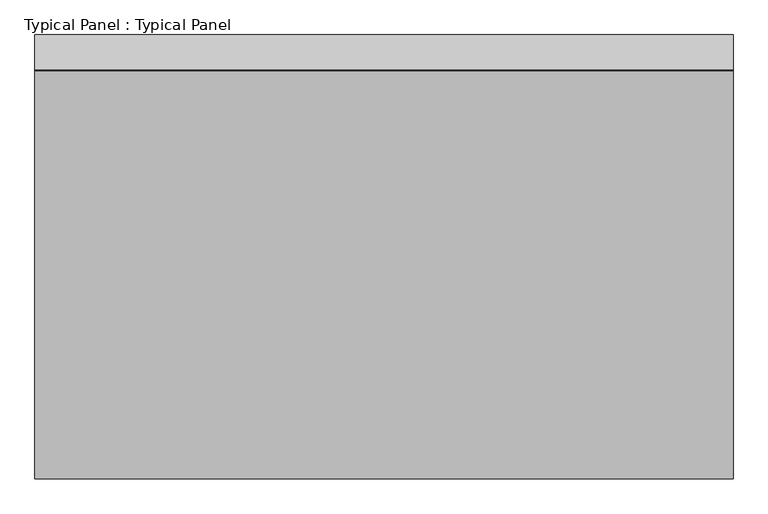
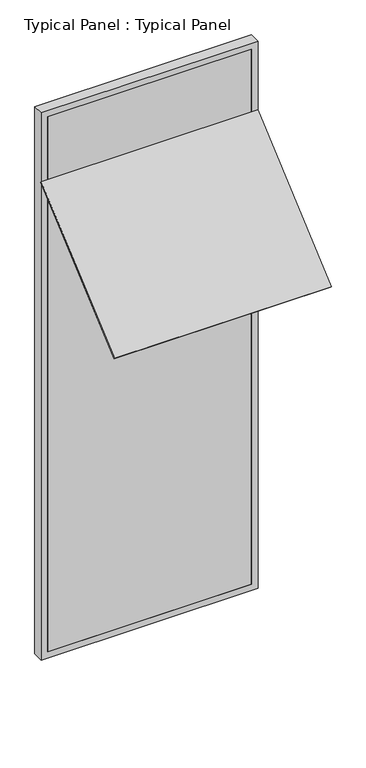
"""IFC4 building model written with IfcOpenShell, lengths in millimetres: plate geometry, Typical Panel : Typical Panel."""

import ifcopenshell
import ifcopenshell.guid

model = None  # the IFC model being written
_history = None  # IfcOwnerHistory: only IFC2X3 demands one
_inside = {}  # id of a spatial element -> (the spatial element, [elements in it])
_under = {}  # id of a project, library or spatial element -> (it, [spatial elements below it])
_declared = {}  # id of a project -> (the project, [libraries it declares])
_typed = {}  # id of a type object -> (the type object, [elements of that type])
_made_of = {}  # id of a material, layer set ... -> (it, [elements and type objects made of it])


def new_model(schema):
    """Start an empty IFC model of exactly this schema.

    Asked for "IFC4X3", IfcOpenShell would pick the latest addendum, in which some entities
    have other attributes; the version numbers below select the first issue.
    IFC2X3 requires an IfcOwnerHistory on every rooted entity: one is made here for all.
    """
    global model, _history
    if schema == "IFC4X3":
        model = ifcopenshell.file(schema_version=(4, 3, 0, 0))
    else:
        model = ifcopenshell.file(schema=schema)
    _inside.clear()
    _under.clear()
    _declared.clear()
    _typed.clear()
    _made_of.clear()
    _history = None
    if model.schema == "IFC2X3":
        org = make("IfcOrganization", Name="unknown")
        user = make(
            "IfcPersonAndOrganization",
            ThePerson=make("IfcPerson", FamilyName="unknown"),
            TheOrganization=org,
        )
        app = make(
            "IfcApplication",
            ApplicationDeveloper=org,
            Version="unknown",
            ApplicationFullName="unknown",
            ApplicationIdentifier="unknown",
        )
        _history = make(
            "IfcOwnerHistory",
            OwningUser=user,
            OwningApplication=app,
            ChangeAction="ADDED",
            CreationDate=0,
        )
    return model


def make(cls, **values):
    """One entity of the class cls with the attributes given. An attribute that is None is left unset."""
    return model.create_entity(
        cls, **{name: value for name, value in values.items() if value is not None}
    )


def rooted(cls, **values):
    """An entity with a GlobalId (a new one), such as an element, a storey or a relation."""
    return make(cls, GlobalId=ifcopenshell.guid.new(), OwnerHistory=_history, **values)


def si_unit(unit_type, name, prefix=None):
    """IfcSIUnit, for example si_unit("LENGTHUNIT", "METRE", prefix="MILLI")."""
    return make("IfcSIUnit", UnitType=unit_type, Prefix=prefix, Name=name)


def assignment(units):
    """IfcUnitAssignment: the units of a project."""
    return None if units is None else make("IfcUnitAssignment", Units=units)


def point(xyz):
    """IfcCartesianPoint."""
    return None if xyz is None else make("IfcCartesianPoint", Coordinates=xyz)


def direction(xyz):
    """IfcDirection."""
    return None if xyz is None else make("IfcDirection", DirectionRatios=xyz)


def frame(location, z_axis=None, x_axis=None):
    """IfcAxis2Placement3D, a coordinate frame: its origin and axes. An axis left out is left unset."""
    return make(
        "IfcAxis2Placement3D",
        Location=point(location),
        Axis=direction(z_axis),
        RefDirection=direction(x_axis),
    )


def origin():
    """The frame at (0, 0, 0) with its axes left unset."""
    return frame((0.0, 0.0, 0.0))


def place(relative_to, where):
    """IfcLocalPlacement: puts the frame where relative to a parent placement (None: the world)."""
    return make(
        "IfcLocalPlacement", PlacementRelTo=relative_to, RelativePlacement=where
    )


def context(
    kind, dimensions, precision=None, world=None, true_north=None, identifier=None
):
    """IfcGeometricRepresentationContext, for example the 3D "Model" context."""
    return make(
        "IfcGeometricRepresentationContext",
        ContextIdentifier=identifier,
        ContextType=kind,
        CoordinateSpaceDimension=dimensions,
        Precision=precision,
        WorldCoordinateSystem=world,
        TrueNorth=true_north,
    )


def project(units=None, contexts=None):
    """IfcProject with its units and contexts."""
    return rooted(
        "IfcProject",
        Name="project",
        RepresentationContexts=contexts,
        UnitsInContext=assignment(units),
    )


def spatial(cls, under=None, at=None, **own):
    """A site, building, storey or space (cls), placed at a placement, below another one or the project."""
    s = rooted(cls, ObjectPlacement=at, **own)
    if under is not None:
        _under.setdefault(under.id(), (under, []))[1].append(s)
    return s


def polyline(points):
    """IfcPolyline through the points."""
    return make("IfcPolyline", Points=[point(p) for p in points])


def outline(outer, holes=None, kind="AREA"):
    """IfcArbitraryClosedProfileDef: a profile drawn as a closed curve; with holes, ...WithVoids."""
    if holes is None:
        return make("IfcArbitraryClosedProfileDef", ProfileType=kind, OuterCurve=outer)
    return make(
        "IfcArbitraryProfileDefWithVoids",
        ProfileType=kind,
        OuterCurve=outer,
        InnerCurves=holes,
    )


def extrude(swept, where, along, depth):
    """IfcExtrudedAreaSolid: the profile swept, set in the frame where, extruded along a direction by depth."""
    return make(
        "IfcExtrudedAreaSolid",
        SweptArea=swept,
        Position=where,
        ExtrudedDirection=direction(along),
        Depth=depth,
    )


def shape(context_of_items, identifier, shape_type, items):
    """IfcShapeRepresentation: the items that make up one representation, for example the "Body"."""
    return make(
        "IfcShapeRepresentation",
        ContextOfItems=context_of_items,
        RepresentationIdentifier=identifier,
        RepresentationType=shape_type,
        Items=items,
    )


def source(mapping_origin, context_of_items, identifier, shape_type, items):
    """IfcRepresentationMap: a shape defined once, which mapped items show again and again."""
    return make(
        "IfcRepresentationMap",
        MappingOrigin=mapping_origin,
        MappedRepresentation=shape(context_of_items, identifier, shape_type, items),
    )


def transform(
    local_origin,
    x_axis=None,
    y_axis=None,
    z_axis=None,
    scale=None,
    scale2=None,
    scale3=None,
    uniform=True,
):
    """IfcCartesianTransformationOperator3D, or its non-uniform kind. x_axis, y_axis, z_axis: its Axis1, 2, 3."""
    if uniform:
        return make(
            "IfcCartesianTransformationOperator3D",
            Axis1=direction(x_axis),
            Axis2=direction(y_axis),
            LocalOrigin=point(local_origin),
            Scale=scale,
            Axis3=direction(z_axis),
        )
    return make(
        "IfcCartesianTransformationOperator3DnonUniform",
        Axis1=direction(x_axis),
        Axis2=direction(y_axis),
        LocalOrigin=point(local_origin),
        Scale=scale,
        Axis3=direction(z_axis),
        Scale2=scale2,
        Scale3=scale3,
    )


def mapped(mapping_source, mapping_target):
    """IfcMappedItem: shows the shape of a source again, moved by a transform."""
    return make(
        "IfcMappedItem", MappingSource=mapping_source, MappingTarget=mapping_target
    )


def made_of(thing, what):
    """Note that an element or type object is made of a material, layer set ...; save() writes the relation."""
    if what is not None:
        _made_of.setdefault(what.id(), (what, []))[1].append(thing)
    return thing


def element(
    cls,
    number,
    at=None,
    inside=None,
    cuts=None,
    type_object=None,
    material=None,
    context=None,
    identifier="Body",
    shape_type=None,
    held_by="IfcProductDefinitionShape",
    body=None,
    shapes=None,
    **own,
):
    """One element of the class cls, such as IfcWall. Its Tag is "e" and its number.

    at: its placement. inside: the storey or other place that contains it. cuts: it is an
    opening in that element (IfcRelVoidsElement). A single representation is given by context,
    identifier, shape_type and body (its items); several are given by shapes. held_by: the class
    of the entity that holds the representations. save() writes the other relations.
    """
    e = rooted(cls, Tag="e%d" % number, ObjectPlacement=at, **own)
    if body is not None:
        shapes = [shape(context, identifier, shape_type, body)]
    if shapes is not None:
        e.Representation = make(held_by, Representations=shapes)
    if inside is not None:
        _inside.setdefault(inside.id(), (inside, []))[1].append(e)
    if cuts is not None:
        rooted(
            "IfcRelVoidsElement", RelatingBuildingElement=cuts, RelatedOpeningElement=e
        )
    if type_object is not None:
        _typed.setdefault(type_object.id(), (type_object, []))[1].append(e)
    return made_of(e, material)


def aggregate(whole, parts):
    """IfcRelAggregates: a whole, such as a stair, and the parts it consists of."""
    return rooted("IfcRelAggregates", RelatingObject=whole, RelatedObjects=parts)


def save(model, path):
    """Write the relations noted so far, then the file.

    IfcRelAggregates (storeys below a building ...), IfcRelContainedInSpatialStructure (elements
    in a storey), IfcRelDefinesByType, IfcRelAssociatesMaterial and IfcRelDeclares: one each for
    every whole, place, type object, material and project.
    """
    for whole, parts in _under.values():
        aggregate(whole, parts)
    for where, things in _inside.values():
        rooted(
            "IfcRelContainedInSpatialStructure",
            RelatedElements=things,
            RelatingStructure=where,
        )
    for kind, things in _typed.values():
        rooted("IfcRelDefinesByType", RelatedObjects=things, RelatingType=kind)
    for what, things in _made_of.values():
        rooted("IfcRelAssociatesMaterial", RelatedObjects=things, RelatingMaterial=what)
    for by, libraries in _declared.values():
        rooted("IfcRelDeclares", RelatingContext=by, RelatedDefinitions=libraries)
    model.write(path)


def typical_panel_typical_panel_4d8c99ed(model_context):
    return source(origin(), model_context, "Body", "SweptSolid", [
        extrude(outline(polyline([(0.0, -1160.0), (0.0, 0.0), (1500.0, 0.0), (1500.0, -1160.0), (0.0, -1160.0)])), frame((750.0, -873.9025228, 2731.4244306), z_axis=(0.0, -0.6560590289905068, 0.7547095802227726), x_axis=(-1.0, 0.0, 0.0)), (0.0, 0.0, 1.0), 10.0),
        extrude(outline(polyline([(0.0, -750.0), (0.0, 750.0), (4000.0, 750.0), (4000.0, -750.0), (0.0, -750.0)]), holes=[polyline([(45.0, 705.0), (45.0, -705.0), (3955.0, -705.0), (3955.0, 705.0), (45.0, 705.0)])]), frame((0.0, -1.5797986, 0.0), z_axis=(0.0, 1.0, 0.0), x_axis=(0.0, 0.0, 1.0)), (0.0, 0.0, 1.0), 75.0),
        extrude(outline(polyline([(705.0, -1.5797986), (-705.0, -1.5797986), (-705.0, 13.4202014), (705.0, 13.4202014), (705.0, -1.5797986)])), frame((0.0, 0.0, 45.0), z_axis=(0.0, 0.0, 1.0), x_axis=(1.0, 0.0, 0.0)), (0.0, 0.0, 1.0), 3910.0),
    ])


if __name__ == "__main__":
    model = new_model("IFC4")
    model_context = context("Model", 3, world=origin())
    ifc_project = project(units=[si_unit("LENGTHUNIT", "METRE", prefix="MILLI")], contexts=[model_context])
    site = spatial("IfcSite", under=ifc_project)
    building = spatial("IfcBuilding", under=site)
    placement = place(None, origin())
    typical_panel_typical_panel_shape = typical_panel_typical_panel_4d8c99ed(model_context)
    element("IfcPlate", 1, ObjectType="Typical Panel : Typical Panel", at=placement, inside=building, context=model_context, shape_type="MappedRepresentation", body=[
        mapped(typical_panel_typical_panel_shape, transform((0.0, 0.0, 0.0), x_axis=(1.0, 0.0, 0.0), y_axis=(0.0, 1.0, 0.0), z_axis=(0.0, 0.0, 1.0))),
    ])
    save(model, "model.ifc")
